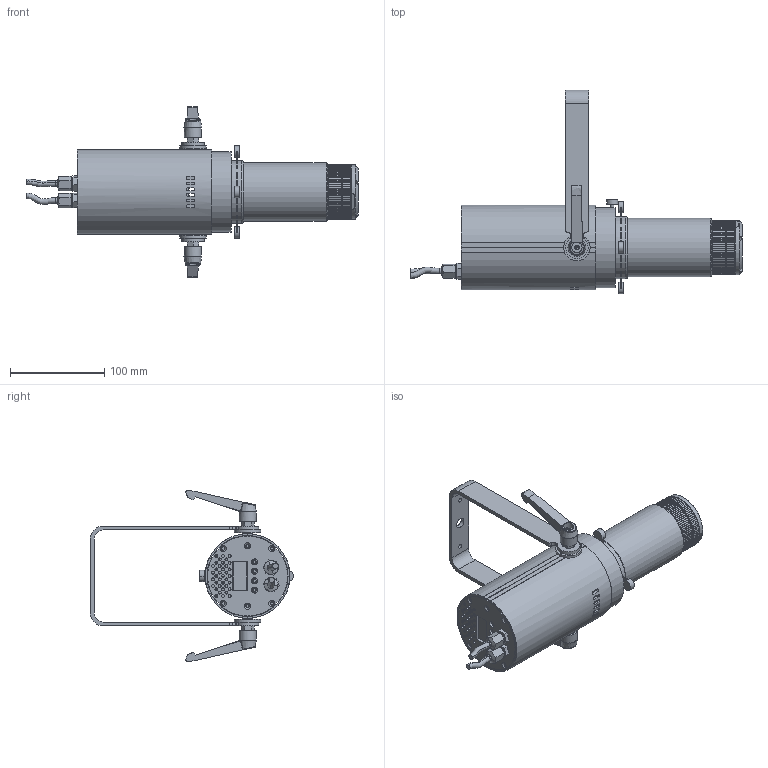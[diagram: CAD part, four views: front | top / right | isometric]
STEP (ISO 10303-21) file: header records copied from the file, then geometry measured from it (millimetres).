
FILE_DESCRIPTION (( 'STEP AP214' ), '1' );
FILE_NAME ('Gallery50 spot5060.STEP', '2025-04-10T01:47:36', ( '' ), ( '' ), 'SwSTEP 2.0', 'SolidWorks 2023', '' );
FILE_SCHEMA (( 'AUTOMOTIVE_DESIGN' ));
Length unit declared in the file: millimetre
Products named in the file (10): 零件4; Gallery50 spot5060; 1; 锁紧螺丝M4; 零件3; PG头∮7（黑色); 角度调节器组件03; cross recessed cheese head screws type a gb_GB_CROSS_SCREWS_TYPE135 M3X4-N; 角度调节器组件02; 40w二合一显示屏
Assembly tree (13 placements, depth 2):
  Gallery50 spot5060
    1
    40w二合一显示屏
    PG头∮7（黑色)  x2
    锁紧螺丝M4
    零件3
    角度调节器组件02  x2
    角度调节器组件03  x2
    cross recessed cheese head screws type a gb_GB_CROSS_SCREWS_TYPE135 M3X4-N  x2
    零件4
Bounding box: 352.6 x 216 x 181.5 mm (x, y, z)
Volume: 625745 mm3; surface area: 223481.8 mm2
Topology: 19 solids, 19 shells, 1318 faces, 3578 edges, 2341 vertices
Faces by surface type: plane 828, cylinder 411, bspline 37, cone 24, torus 11, sphere 7
Full cylindrical faces by diameter (mm): 2.5 x1, 3 x39, 3.2 x4, 3.3 x2, 3.4 x6, 4 x2, 4.5 x2, 5 x2, 6 x2, 6.5 x6, 7 x4, 10 x1, 11 x3, 12 x4, 12.5 x2, 14 x2, 18 x2, 28 x2, 30 x1, 54 x2, 57.5 x1, 62 x2, 66 x1, 85 x2, 86 x1
Entity records: 41788 total; most frequent: CARTESIAN_POINT 12321, ORIENTED_EDGE 6234, DIRECTION 5591, EDGE_CURVE 3117, VERTEX_POINT 2116, AXIS2_PLACEMENT_3D 1923, LINE 1745, VECTOR 1745
